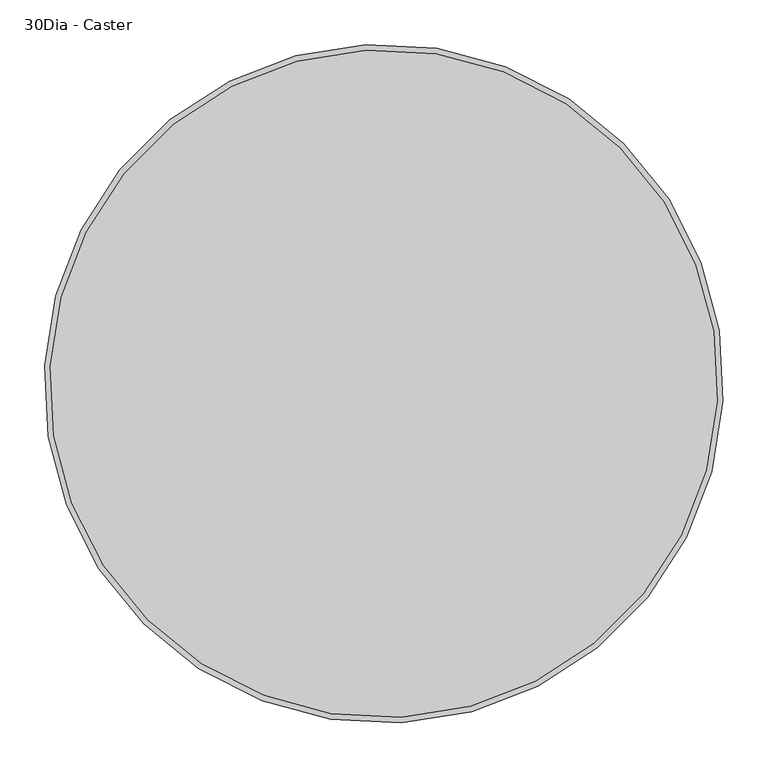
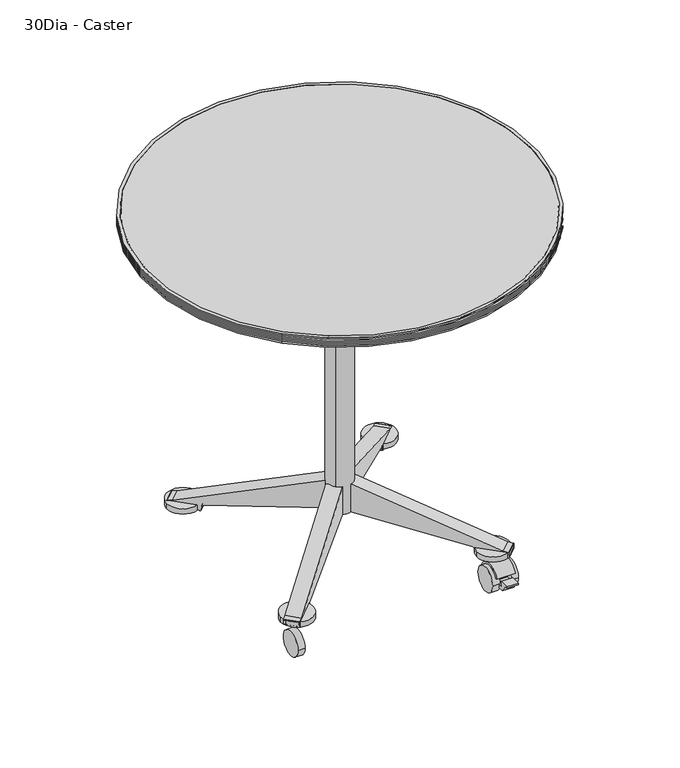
"""IFC4 building model written with IfcOpenShell, lengths in millimetres: furniture geometry, Coalesse_AM_Table_Conference_Ballet_Table_Round : 30Dia - Caster."""

import ifcopenshell
import ifcopenshell.guid

model = None  # the IFC model being written
_history = None  # IfcOwnerHistory: only IFC2X3 demands one
_inside = {}  # id of a spatial element -> (the spatial element, [elements in it])
_under = {}  # id of a project, library or spatial element -> (it, [spatial elements below it])
_declared = {}  # id of a project -> (the project, [libraries it declares])
_typed = {}  # id of a type object -> (the type object, [elements of that type])
_made_of = {}  # id of a material, layer set ... -> (it, [elements and type objects made of it])


def new_model(schema):
    """Start an empty IFC model of exactly this schema.

    Asked for "IFC4X3", IfcOpenShell would pick the latest addendum, in which some entities
    have other attributes; the version numbers below select the first issue.
    IFC2X3 requires an IfcOwnerHistory on every rooted entity: one is made here for all.
    """
    global model, _history
    if schema == "IFC4X3":
        model = ifcopenshell.file(schema_version=(4, 3, 0, 0))
    else:
        model = ifcopenshell.file(schema=schema)
    _inside.clear()
    _under.clear()
    _declared.clear()
    _typed.clear()
    _made_of.clear()
    _history = None
    if model.schema == "IFC2X3":
        org = make("IfcOrganization", Name="unknown")
        user = make(
            "IfcPersonAndOrganization",
            ThePerson=make("IfcPerson", FamilyName="unknown"),
            TheOrganization=org,
        )
        app = make(
            "IfcApplication",
            ApplicationDeveloper=org,
            Version="unknown",
            ApplicationFullName="unknown",
            ApplicationIdentifier="unknown",
        )
        _history = make(
            "IfcOwnerHistory",
            OwningUser=user,
            OwningApplication=app,
            ChangeAction="ADDED",
            CreationDate=0,
        )
    return model


def make(cls, **values):
    """One entity of the class cls with the attributes given. An attribute that is None is left unset."""
    return model.create_entity(
        cls, **{name: value for name, value in values.items() if value is not None}
    )


def rooted(cls, **values):
    """An entity with a GlobalId (a new one), such as an element, a storey or a relation."""
    return make(cls, GlobalId=ifcopenshell.guid.new(), OwnerHistory=_history, **values)


def si_unit(unit_type, name, prefix=None):
    """IfcSIUnit, for example si_unit("LENGTHUNIT", "METRE", prefix="MILLI")."""
    return make("IfcSIUnit", UnitType=unit_type, Prefix=prefix, Name=name)


def assignment(units):
    """IfcUnitAssignment: the units of a project."""
    return None if units is None else make("IfcUnitAssignment", Units=units)


def point(xyz):
    """IfcCartesianPoint."""
    return None if xyz is None else make("IfcCartesianPoint", Coordinates=xyz)


def direction(xyz):
    """IfcDirection."""
    return None if xyz is None else make("IfcDirection", DirectionRatios=xyz)


def frame(location, z_axis=None, x_axis=None):
    """IfcAxis2Placement3D, a coordinate frame: its origin and axes. An axis left out is left unset."""
    return make(
        "IfcAxis2Placement3D",
        Location=point(location),
        Axis=direction(z_axis),
        RefDirection=direction(x_axis),
    )


def frame_2d(location, x_axis=None):
    """IfcAxis2Placement2D, a coordinate frame in the plane: its origin and x axis."""
    return make(
        "IfcAxis2Placement2D", Location=point(location), RefDirection=direction(x_axis)
    )


def origin():
    """The frame at (0, 0, 0) with its axes left unset."""
    return frame((0.0, 0.0, 0.0))


def origin_2d():
    """The frame at (0, 0) in the plane with its x axis left unset."""
    return frame_2d((0.0, 0.0))


def place(relative_to, where):
    """IfcLocalPlacement: puts the frame where relative to a parent placement (None: the world)."""
    return make(
        "IfcLocalPlacement", PlacementRelTo=relative_to, RelativePlacement=where
    )


def context(
    kind, dimensions, precision=None, world=None, true_north=None, identifier=None
):
    """IfcGeometricRepresentationContext, for example the 3D "Model" context."""
    return make(
        "IfcGeometricRepresentationContext",
        ContextIdentifier=identifier,
        ContextType=kind,
        CoordinateSpaceDimension=dimensions,
        Precision=precision,
        WorldCoordinateSystem=world,
        TrueNorth=true_north,
    )


def project(units=None, contexts=None):
    """IfcProject with its units and contexts."""
    return rooted(
        "IfcProject",
        Name="project",
        RepresentationContexts=contexts,
        UnitsInContext=assignment(units),
    )


def spatial(cls, under=None, at=None, **own):
    """A site, building, storey or space (cls), placed at a placement, below another one or the project."""
    s = rooted(cls, ObjectPlacement=at, **own)
    if under is not None:
        _under.setdefault(under.id(), (under, []))[1].append(s)
    return s


def polyline(points):
    """IfcPolyline through the points."""
    return make("IfcPolyline", Points=[point(p) for p in points])


def circle_curve(where, radius):
    """IfcCircle in the frame where."""
    return make("IfcCircle", Position=where, Radius=radius)


def trimmed(basis, trim1, trim2, sense, master):
    """IfcTrimmedCurve: the piece of a basis curve between two trims."""
    return make(
        "IfcTrimmedCurve",
        BasisCurve=basis,
        Trim1=trim1,
        Trim2=trim2,
        SenseAgreement=sense,
        MasterRepresentation=master,
    )


def segment(curve, same_sense, transition):
    """IfcCompositeCurveSegment."""
    return make(
        "IfcCompositeCurveSegment",
        Transition=transition,
        SameSense=same_sense,
        ParentCurve=curve,
    )


def composite_curve(segments, self_intersect=None):
    """IfcCompositeCurve: segments joined end to end."""
    return make("IfcCompositeCurve", Segments=segments, SelfIntersect=self_intersect)


def outline(outer, holes=None, kind="AREA"):
    """IfcArbitraryClosedProfileDef: a profile drawn as a closed curve; with holes, ...WithVoids."""
    if holes is None:
        return make("IfcArbitraryClosedProfileDef", ProfileType=kind, OuterCurve=outer)
    return make(
        "IfcArbitraryProfileDefWithVoids",
        ProfileType=kind,
        OuterCurve=outer,
        InnerCurves=holes,
    )


def extrude(swept, where, along, depth):
    """IfcExtrudedAreaSolid: the profile swept, set in the frame where, extruded along a direction by depth."""
    return make(
        "IfcExtrudedAreaSolid",
        SweptArea=swept,
        Position=where,
        ExtrudedDirection=direction(along),
        Depth=depth,
    )


def shape(context_of_items, identifier, shape_type, items):
    """IfcShapeRepresentation: the items that make up one representation, for example the "Body"."""
    return make(
        "IfcShapeRepresentation",
        ContextOfItems=context_of_items,
        RepresentationIdentifier=identifier,
        RepresentationType=shape_type,
        Items=items,
    )


def source(mapping_origin, context_of_items, identifier, shape_type, items):
    """IfcRepresentationMap: a shape defined once, which mapped items show again and again."""
    return make(
        "IfcRepresentationMap",
        MappingOrigin=mapping_origin,
        MappedRepresentation=shape(context_of_items, identifier, shape_type, items),
    )


def transform(
    local_origin,
    x_axis=None,
    y_axis=None,
    z_axis=None,
    scale=None,
    scale2=None,
    scale3=None,
    uniform=True,
):
    """IfcCartesianTransformationOperator3D, or its non-uniform kind. x_axis, y_axis, z_axis: its Axis1, 2, 3."""
    if uniform:
        return make(
            "IfcCartesianTransformationOperator3D",
            Axis1=direction(x_axis),
            Axis2=direction(y_axis),
            LocalOrigin=point(local_origin),
            Scale=scale,
            Axis3=direction(z_axis),
        )
    return make(
        "IfcCartesianTransformationOperator3DnonUniform",
        Axis1=direction(x_axis),
        Axis2=direction(y_axis),
        LocalOrigin=point(local_origin),
        Scale=scale,
        Axis3=direction(z_axis),
        Scale2=scale2,
        Scale3=scale3,
    )


def mapped(mapping_source, mapping_target):
    """IfcMappedItem: shows the shape of a source again, moved by a transform."""
    return make(
        "IfcMappedItem", MappingSource=mapping_source, MappingTarget=mapping_target
    )


def made_of(thing, what):
    """Note that an element or type object is made of a material, layer set ...; save() writes the relation."""
    if what is not None:
        _made_of.setdefault(what.id(), (what, []))[1].append(thing)
    return thing


def element(
    cls,
    number,
    at=None,
    inside=None,
    cuts=None,
    type_object=None,
    material=None,
    context=None,
    identifier="Body",
    shape_type=None,
    held_by="IfcProductDefinitionShape",
    body=None,
    shapes=None,
    **own,
):
    """One element of the class cls, such as IfcWall. Its Tag is "e" and its number.

    at: its placement. inside: the storey or other place that contains it. cuts: it is an
    opening in that element (IfcRelVoidsElement). A single representation is given by context,
    identifier, shape_type and body (its items); several are given by shapes. held_by: the class
    of the entity that holds the representations. save() writes the other relations.
    """
    e = rooted(cls, Tag="e%d" % number, ObjectPlacement=at, **own)
    if body is not None:
        shapes = [shape(context, identifier, shape_type, body)]
    if shapes is not None:
        e.Representation = make(held_by, Representations=shapes)
    if inside is not None:
        _inside.setdefault(inside.id(), (inside, []))[1].append(e)
    if cuts is not None:
        rooted(
            "IfcRelVoidsElement", RelatingBuildingElement=cuts, RelatedOpeningElement=e
        )
    if type_object is not None:
        _typed.setdefault(type_object.id(), (type_object, []))[1].append(e)
    return made_of(e, material)


def aggregate(whole, parts):
    """IfcRelAggregates: a whole, such as a stair, and the parts it consists of."""
    return rooted("IfcRelAggregates", RelatingObject=whole, RelatedObjects=parts)


def save(model, path):
    """Write the relations noted so far, then the file.

    IfcRelAggregates (storeys below a building ...), IfcRelContainedInSpatialStructure (elements
    in a storey), IfcRelDefinesByType, IfcRelAssociatesMaterial and IfcRelDeclares: one each for
    every whole, place, type object, material and project.
    """
    for whole, parts in _under.values():
        aggregate(whole, parts)
    for where, things in _inside.values():
        rooted(
            "IfcRelContainedInSpatialStructure",
            RelatedElements=things,
            RelatingStructure=where,
        )
    for kind, things in _typed.values():
        rooted("IfcRelDefinesByType", RelatedObjects=things, RelatingType=kind)
    for what, things in _made_of.values():
        rooted("IfcRelAssociatesMaterial", RelatedObjects=things, RelatingMaterial=what)
    for by, libraries in _declared.values():
        rooted("IfcRelDeclares", RelatingContext=by, RelatedDefinitions=libraries)
    model.write(path)


def plane_surface(at):
    """IfcPlane: the flat surface through the origin of the frame at, square to its z axis."""
    return make("IfcPlane", Position=at)


def cylinder_surface(at, radius):
    """IfcCylindricalSurface: all points at the distance radius from the z axis of the frame at."""
    return make("IfcCylindricalSurface", Position=at, Radius=radius)


def revolved_surface(curve, axis_point, axis_direction):
    """IfcSurfaceOfRevolution: the curve turned about the line through axis_point along axis_direction."""
    return make(
        "IfcSurfaceOfRevolution",
        SweptCurve=make("IfcArbitraryOpenProfileDef", ProfileType="CURVE", Curve=curve),
        AxisPosition=make("IfcAxis1Placement", Location=point(axis_point), Axis=direction(axis_direction)),
    )


def advanced_brep(points, edges, surfaces, faces):
    """IfcAdvancedBrep: a solid bounded by faces that lie on surfaces and meet in shared edges.

    An edge is (start, end): straight between two places in points (the first is 0);
    or (start, end, curve); or (start, end, curve, False) where it runs against its curve.
    A face is (place in surfaces, loops), or (place, loops, False) where it looks against
    its surface's normal. A loop lists edges by number (the first is 1), with a minus sign
    where the edge is run from its end to its start. The first loop is the outer one.
    """
    corners = [point(p) for p in points]
    vertices = [make("IfcVertexPoint", VertexGeometry=c) for c in corners]
    made = []
    for start, end, *more in edges:
        made.append(
            make(
                "IfcEdgeCurve",
                EdgeStart=vertices[start],
                EdgeEnd=vertices[end],
                EdgeGeometry=more[0] if more else make("IfcPolyline", Points=[corners[start], corners[end]]),
                SameSense=more[1] if len(more) > 1 else True,
            )
        )
    hull = []
    for where, loops, *sense in faces:
        bounds = []
        for j, loop in enumerate(loops):
            ring = [make("IfcOrientedEdge", EdgeElement=made[abs(k) - 1], Orientation=k > 0) for k in loop]
            bounds.append(
                make(
                    "IfcFaceOuterBound" if j == 0 else "IfcFaceBound",
                    Bound=make("IfcEdgeLoop", EdgeList=ring),
                    Orientation=True,
                )
            )
        hull.append(make("IfcAdvancedFace", Bounds=bounds, FaceSurface=surfaces[where], SameSense=sense[0] if sense else True))
    return make("IfcAdvancedBrep", Outer=make("IfcClosedShell", CfsFaces=hull))


def furniture_30dia_caster_169a5ec4(model_context):
    return source(origin(), model_context, "Body", "SolidModel", [
        extrude(outline(composite_curve([segment(trimmed(circle_curve(frame_2d((-208.7663144, 24.9907393)), 24.9398531), [point((-233.7061675, 24.9907393))], [point((-183.8264612, 24.9907393))], False, "CARTESIAN"), True, "CONTINUOUS"), segment(trimmed(circle_curve(frame_2d((-208.7663144, 24.9907393)), 24.9398531), [point((-183.8264612, 24.9907393))], [point((-233.7061675, 24.9907393))], False, "CARTESIAN"), True, "CONTINUOUS")], self_intersect=False)), frame((-217.0426362, 0.0, 0.0), z_axis=(1.0, 0.0, 0.0), x_axis=(0.0, 1.0, 0.0)), (0.0, 0.0, 1.0), 13.7103424),
        advanced_brep(
        [(210.1271218, -182.4395783, 14.7931869), (210.1271218, -182.4395783, 35.8956886), (210.1271218, -197.8152878, 51.3082762), (210.1271218, -234.6796249, 36.8601197), (210.1271218, -231.2540436, 35.7749086), (210.1271218, -185.3508649, 16.4051117), (174.0984431, -182.4395783, 14.7931869), (174.0984431, -185.3508649, 16.4051117), (174.0984431, -231.2540436, 35.7749086), (174.0984431, -234.6796249, 36.8601197), (174.0984431, -197.8152878, 51.3082762), (174.0984431, -182.4395783, 35.8956886), (201.6603984, -197.8152878, 51.3082762), (179.2633359, -197.8152878, 51.3082762), (179.2633359, -182.4395783, 35.8956886), (201.6603984, -182.4395783, 35.8956886), (179.2633359, -231.2540436, 35.7749086), (179.2633359, -219.8001714, 32.1463658), (201.6603984, -219.8001714, 32.1463658), (201.6603984, -231.2540436, 35.7749086), (201.6603984, -185.3508649, 16.4051117), (201.6603984, -195.904393, 22.2484025), (179.2633359, -195.904393, 22.2484025), (179.2633359, -185.3508649, 16.4051117), (201.6603984, -197.8152878, 63.5225277), (201.6603984, -182.4395783, 63.5225277), (201.6603984, -222.0637731, 25.0010719), (201.6603984, -241.3530844, 25.0010719), (201.6603984, -241.3530844, 35.1210973), (201.6603984, -260.4030844, 35.1210973), (201.6603984, -260.4030844, 31.7691038), (201.6603984, -253.6776476, 31.7691038), (201.6603984, -244.706152, 17.4117096), (201.6603984, -218.9375545, 17.4117096), (201.6603984, -198.9802659, 16.6930892), (179.2633359, -197.8152878, 63.5225277), (179.2633359, -182.4395783, 63.5225277), (179.2633359, -198.9802659, 16.6930892), (179.2633359, -218.9375545, 17.4117096), (179.2633359, -244.706152, 17.4117096), (179.2633359, -253.6776476, 31.7691038), (179.2633359, -260.4030844, 31.7691038), (179.2633359, -260.4030844, 35.1210973), (179.2633359, -241.3530844, 35.1210973), (179.2633359, -241.3530844, 25.0010719), (179.2633359, -222.0637731, 25.0010719)],
        [
            (0, 1, circle_curve(frame((210.1271218, -209.2741105, 25.3444377), z_axis=(1.0, 0.0, 0.0), x_axis=(0.0, 1.0, 0.0)), 28.8343721)),
            (1, 2, circle_curve(frame((210.1271218, -207.8788336, 25.8930561), z_axis=(1.0, 0.0, 0.0), x_axis=(0.0, 1.0, 0.0)), 27.3351124)),
            (2, 3, circle_curve(frame((210.1271218, -209.4353674, 26.7032164), z_axis=(1.0, 0.0, 0.0), x_axis=(0.0, 1.0, 0.0)), 27.2109394)),
            (3, 4),
            (4, 5, circle_curve(frame((210.1271218, -208.7663144, 24.9907393), z_axis=(-1.0, 0.0, 0.0), x_axis=(0.0, 1.0, 0.0)), 24.9398531)),
            (5, 0),
            (6, 7),
            (7, 8, circle_curve(frame((174.0984431, -208.7663144, 24.9907393), z_axis=(1.0, 0.0, 0.0), x_axis=(0.0, 1.0, 0.0)), 24.9398531)),
            (8, 9),
            (9, 10, circle_curve(frame((174.0984431, -209.4353674, 26.7032164), z_axis=(-1.0, 0.0, 0.0), x_axis=(0.0, 1.0, 0.0)), 27.2109394)),
            (10, 11, circle_curve(frame((174.0984431, -207.8788336, 25.8930561), z_axis=(-1.0, 0.0, 0.0), x_axis=(0.0, 1.0, 0.0)), 27.3351124)),
            (11, 6, circle_curve(frame((174.0984431, -209.2741105, 25.3444377), z_axis=(-1.0, 0.0, 0.0), x_axis=(0.0, 1.0, 0.0)), 28.8343721)),
            (9, 3),
            (2, 12),
            (12, 13),
            (13, 10),
            (0, 6),
            (11, 14),
            (14, 15),
            (15, 1),
            (8, 16),
            (16, 17),
            (17, 18),
            (18, 19),
            (19, 4),
            (5, 20),
            (20, 21),
            (21, 22),
            (22, 23),
            (23, 7),
            (15, 12, circle_curve(frame((201.6603984, -207.8788336, 25.8930561), z_axis=(1.0, 0.0, 0.0), x_axis=(0.0, 1.0, 0.0)), 27.3351124)),
            (13, 14, circle_curve(frame((179.2633359, -207.8788336, 25.8930561), z_axis=(-1.0, 0.0, 0.0), x_axis=(0.0, 1.0, 0.0)), 27.3351124)),
            (19, 20, circle_curve(frame((201.6603984, -208.7663144, 24.9907393), z_axis=(-1.0, 0.0, 0.0), x_axis=(0.0, 1.0, 0.0)), 24.9398531)),
            (23, 16, circle_curve(frame((179.2633359, -208.7663144, 24.9907393), z_axis=(1.0, 0.0, 0.0), x_axis=(0.0, 1.0, 0.0)), 24.9398531)),
            (24, 12),
            (15, 25),
            (25, 24),
            (18, 26),
            (26, 27),
            (27, 28),
            (28, 29),
            (29, 30),
            (30, 31),
            (31, 32),
            (32, 33),
            (33, 34, circle_curve(frame((201.6603984, -208.672695, 25.0010719), z_axis=(1.0, 0.0, 0.0), x_axis=(0.0, 1.0, 0.0)), 12.7658043)),
            (34, 21),
            (35, 36),
            (36, 14),
            (13, 35),
            (22, 37),
            (37, 38, circle_curve(frame((179.2633359, -208.672695, 25.0010719), z_axis=(-1.0, 0.0, 0.0), x_axis=(0.0, 1.0, 0.0)), 12.7658043)),
            (38, 39),
            (39, 40),
            (40, 41),
            (41, 42),
            (42, 43),
            (43, 44),
            (44, 45),
            (45, 17),
            (24, 35),
            (36, 25),
            (45, 26),
            (33, 38),
            (37, 34),
            (44, 27),
            (43, 28),
            (42, 29),
            (41, 30),
            (40, 31),
            (39, 32),
        ],
        [
            plane_surface(frame((210.1271218, -180.4397384, 25.3444377), z_axis=(1.0, 0.0, 0.0), x_axis=(0.0, 0.0, 1.0))),
            plane_surface(frame((174.0984431, -180.4397384, 25.3444377), z_axis=(-1.0, 0.0, 0.0), x_axis=(0.0, 0.0, -1.0))),
            cylinder_surface(frame((174.0984431, -209.4353674, 26.7032164), z_axis=(1.0, 0.0, 0.0), x_axis=(0.0, 1.0, 0.0)), 27.2109394),
            cylinder_surface(frame((174.0984431, -209.2741105, 25.3444377), z_axis=(1.0, 0.0, 0.0), x_axis=(0.0, 1.0, 0.0)), 28.8343721),
            plane_surface(frame((210.1271218, -234.6796249, 36.8601197), z_axis=(0.0, -0.30200390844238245, -0.9533066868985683), x_axis=(-1.0, 0.0, 0.0))),
            plane_surface(frame((210.1271218, -185.3508649, 16.4051117), z_axis=(0.0, -0.4843894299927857, -0.8748524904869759), x_axis=(-1.0, 0.0, 0.0))),
            cylinder_surface(frame((174.0984431, -207.8788336, 25.8930561), z_axis=(1.0, 0.0, 0.0), x_axis=(0.0, 1.0, 0.0)), 27.3351124),
            revolved_surface(polyline([(201.6603984, -183.8264613, 24.9907393), (210.1271218, -183.8264613, 24.9907393)]), (174.0984431, -208.7663144, 24.9907393), (-1.0, 0.0, 0.0)),
            revolved_surface(polyline([(174.0984431, -183.8264613, 24.9907393), (179.2633359, -183.8264613, 24.9907393)]), (174.0984431, -208.7663144, 24.9907393), (-1.0, 0.0, 0.0)),
            plane_surface(frame((201.6603984, -197.8152878, 63.5225277), z_axis=(1.0, 0.0, 0.0), x_axis=(0.0, 0.0, -1.0))),
            plane_surface(frame((179.2633359, -197.8152878, 63.5225277), z_axis=(-1.0, 0.0, 0.0), x_axis=(0.0, 0.0, 1.0))),
            plane_surface(frame((201.6603984, -197.8152878, 63.5225277), z_axis=(0.0, -1.0, 0.0), x_axis=(-1.0, 0.0, 0.0))),
            plane_surface(frame((201.6603984, -182.4395783, 35.8956886), z_axis=(0.0, 1.0, 0.0), x_axis=(-1.0, 0.0, 0.0))),
            plane_surface(frame((201.6603984, -182.4395783, 63.5225277), z_axis=(0.0, 0.0, 1.0), x_axis=(-1.0, 0.0, 0.0))),
            plane_surface(frame((201.6603984, -219.8001714, 32.1463658), z_axis=(0.0, -0.9533066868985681, 0.3020039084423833), x_axis=(-1.0, 0.0, 0.0))),
            cylinder_surface(frame((179.2633359, -208.672695, 25.0010719), z_axis=(1.0, 0.0, 0.0), x_axis=(0.0, 1.0, 0.0)), 12.7658043),
            plane_surface(frame((201.6603984, -198.9802659, 16.6930892), z_axis=(0.0, 0.8748524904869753, -0.48438942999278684), x_axis=(-1.0, 0.0, 0.0))),
            plane_surface(frame((201.6603984, -222.0637731, 25.0010719), z_axis=(0.0, 0.0, 1.0), x_axis=(-1.0, 0.0, 0.0))),
            plane_surface(frame((201.6603984, -241.3530844, 25.0010719), z_axis=(0.0, 1.0, 0.0), x_axis=(-1.0, 0.0, 0.0))),
            plane_surface(frame((201.6603984, -241.3530844, 35.1210973), z_axis=(0.0, 0.0, 1.0), x_axis=(-1.0, 0.0, 0.0))),
            plane_surface(frame((201.6603984, -260.4030844, 35.1210973), z_axis=(0.0, -1.0, 0.0), x_axis=(-1.0, 0.0, 0.0))),
            plane_surface(frame((201.6603984, -260.4030844, 31.7691038), z_axis=(0.0, 0.0, -1.0), x_axis=(-1.0, 0.0, 0.0))),
            plane_surface(frame((201.6603984, -253.6776476, 31.7691038), z_axis=(0.0, -0.8480480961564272, -0.529919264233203), x_axis=(-1.0, 0.0, 0.0))),
            plane_surface(frame((201.6603984, -244.706152, 17.4117096), z_axis=(0.0, 0.0, -1.0), x_axis=(-1.0, 0.0, 0.0))),
        ],
        [
            (0, [[1, 2, 3, 4, 5, 6]]),
            (1, [[7, 8, 9, 10, 11, 12]]),
            (2, [[13, -3, 14, 15, 16, -10]]),
            (3, [[-1, 17, -12, 18, 19, 20]]),
            (4, [[-4, -13, -9, 21, 22, 23, 24, 25]]),
            (5, [[-6, 26, 27, 28, 29, 30, -7, -17]]),
            (6, [[-2, -20, 31, -14]]),
            (6, [[-11, -16, 32, -18]]),
            (7, [[-5, -25, 33, -26]]),
            (8, [[-8, -30, 34, -21]]),
            (9, [[35, -31, 36, 37]]),
            (9, [[38, 39, 40, 41, 42, 43, 44, 45, 46, 47, -27, -33, -24]]),
            (10, [[48, 49, -32, 50]]),
            (10, [[51, 52, 53, 54, 55, 56, 57, 58, 59, 60, -22, -34, -29]]),
            (11, [[-35, 61, -50, -15]]),
            (12, [[-36, -19, -49, 62]]),
            (13, [[-37, -62, -48, -61]]),
            (14, [[-38, -23, -60, 63]]),
            (15, [[-46, 64, -52, 65]]),
            (16, [[-47, -65, -51, -28]]),
            (17, [[-39, -63, -59, 66]]),
            (18, [[-40, -66, -58, 67]]),
            (19, [[-41, -67, -57, 68]]),
            (20, [[-42, -68, -56, 69]]),
            (21, [[-43, -69, -55, 70]]),
            (22, [[-44, -70, -54, 71]]),
            (23, [[-45, -71, -53, -64]]),
        ],
    ),
        extrude(outline(composite_curve([segment(trimmed(circle_curve(frame_2d((-208.7663144, 24.9907393)), 24.9398531), [point((-233.7061675, 24.9907393))], [point((-183.8264612, 24.9907393))], False, "CARTESIAN"), True, "CONTINUOUS"), segment(trimmed(circle_curve(frame_2d((-208.7663144, 24.9907393)), 24.9398531), [point((-183.8264612, 24.9907393))], [point((-233.7061675, 24.9907393))], False, "CARTESIAN"), True, "CONTINUOUS")], self_intersect=False)), frame((166.2968952, 0.0, 0.0), z_axis=(1.0, 0.0, 0.0), x_axis=(0.0, 1.0, 0.0)), (0.0, 0.0, 1.0), 14.6120158),
        extrude(outline(composite_curve([segment(trimmed(circle_curve(frame_2d((-208.7663144, 24.9907393)), 24.9398531), [point((-233.7061675, 24.9907393))], [point((-183.8264612, 24.9907393))], False, "CARTESIAN"), True, "CONTINUOUS"), segment(trimmed(circle_curve(frame_2d((-208.7663144, 24.9907393)), 24.9398531), [point((-183.8264612, 24.9907393))], [point((-233.7061675, 24.9907393))], False, "CARTESIAN"), True, "CONTINUOUS")], self_intersect=False)), frame((203.3322938, 0.0, 0.0), z_axis=(1.0, 0.0, 0.0), x_axis=(0.0, 1.0, 0.0)), (0.0, 0.0, 1.0), 13.7103424),
        extrude(outline(composite_curve([segment(trimmed(circle_curve(frame_2d((-194.715793, 197.3207687)), 31.75), [point((-226.465793, 197.3207687))], [point((-162.965793, 197.3207687))], False, "CARTESIAN"), True, "CONTINUOUS"), segment(trimmed(circle_curve(frame_2d((-194.715793, 197.3207687)), 31.75), [point((-162.965793, 197.3207687))], [point((-226.465793, 197.3207687))], False, "CARTESIAN"), True, "CONTINUOUS")], self_intersect=False)), frame((0.0, 0.0, 62.0397209), z_axis=(0.0, 0.0, 1.0), x_axis=(1.0, 0.0, 0.0)), (0.0, 0.0, 1.0), 10.7840801),
        extrude(outline(composite_curve([segment(trimmed(circle_curve(frame_2d((191.7194605, 196.5270187)), 31.75), [point((159.9694605, 196.5270187))], [point((223.4694605, 196.5270187))], False, "CARTESIAN"), True, "CONTINUOUS"), segment(trimmed(circle_curve(frame_2d((191.7194605, 196.5270187)), 31.75), [point((223.4694605, 196.5270187))], [point((159.9694605, 196.5270187))], False, "CARTESIAN"), True, "CONTINUOUS")], self_intersect=False)), frame((0.0, 0.0, 62.0397209), z_axis=(0.0, 0.0, 1.0), x_axis=(1.0, 0.0, 0.0)), (0.0, 0.0, 1.0), 10.7840801),
        extrude(outline(composite_curve([segment(trimmed(circle_curve(frame_2d((-194.715793, -191.2787692)), 31.75), [point((-226.465793, -191.2787692))], [point((-162.965793, -191.2787692))], False, "CARTESIAN"), True, "CONTINUOUS"), segment(trimmed(circle_curve(frame_2d((-194.715793, -191.2787692)), 31.75), [point((-162.965793, -191.2787692))], [point((-226.465793, -191.2787692))], False, "CARTESIAN"), True, "CONTINUOUS")], self_intersect=False)), frame((0.0, 0.0, 62.0397209), z_axis=(0.0, 0.0, 1.0), x_axis=(1.0, 0.0, 0.0)), (0.0, 0.0, 1.0), 10.7840801),
        extrude(outline(composite_curve([segment(trimmed(circle_curve(frame_2d((191.7194605, -190.4850192)), 31.75), [point((159.9694605, -190.4850192))], [point((223.4694605, -190.4850192))], False, "CARTESIAN"), True, "CONTINUOUS"), segment(trimmed(circle_curve(frame_2d((191.7194605, -190.4850192)), 31.75), [point((223.4694605, -190.4850192))], [point((159.9694605, -190.4850192))], False, "CARTESIAN"), True, "CONTINUOUS")], self_intersect=False)), frame((0.0, 0.0, 62.0397209), z_axis=(0.0, 0.0, 1.0), x_axis=(1.0, 0.0, 0.0)), (0.0, 0.0, 1.0), 10.7840801),
        extrude(outline(composite_curve([segment(polyline([(-57.749273, 0.0), (0.0, 0.0), (-90.9931074, -269.8641919), (-92.3030079, -279.1846177)]), True, "CONTINUOUS"), segment(trimmed(circle_curve(frame_2d((-93.9206951, -278.9572666)), 1.6335852), [point((-92.3030079, -279.1846177))], [point((-93.8206014, -280.5877823))], False, "CARTESIAN"), True, "CONTINUOUS"), segment(trimmed(circle_curve(frame_2d((-95.8523928, -247.4901147)), 33.1599725), [point((-93.8206014, -280.5877823))], [point((-101.682402, -280.1335639))], False, "CARTESIAN"), True, "CONTINUOUS"), segment(trimmed(circle_curve(frame_2d((-101.2796868, -277.8786768)), 2.2905666), [point((-101.682402, -280.1335639))], [point((-103.5674671, -277.7657306))], False, "CARTESIAN"), True, "CONTINUOUS"), segment(polyline([(-103.5674671, -277.7657306), (-103.5674671, -222.4322812)]), True, "CONTINUOUS"), segment(trimmed(circle_curve(frame_2d((-100.6154331, -221.9840334)), 2.9858719), [point((-103.5674671, -222.4322812))], [point((-100.2998684, -219.0148838))], False, "CARTESIAN"), True, "CONTINUOUS"), segment(trimmed(circle_curve(frame_2d((-98.3053249, -200.2482144)), 18.872363), [point((-100.2998684, -219.0148838))], [point((-94.5016021, -218.7332835))], True, "CARTESIAN"), True, "CONTINUOUS"), segment(trimmed(circle_curve(frame_2d((-95.1495986, -215.5841949)), 3.2150673), [point((-94.5016021, -218.7332835))], [point((-91.9741141, -216.0871422))], True, "CARTESIAN"), True, "CONTINUOUS"), segment(polyline([(-91.9741141, -216.0871422), (-57.749273, 0.0)]), True, "CONTINUOUS")], self_intersect=False)), frame((-23.5273141, 7.7834997, 165.607188), z_axis=(0.7071067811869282, 0.707106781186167, 0.0), x_axis=(0.0, 0.0, 1.0)), (0.0, 0.0, 1.0), 29.2174476),
        extrude(outline(composite_curve([segment(polyline([(-57.749273, 44.2801775), (-91.9741141, 260.3673198)]), True, "CONTINUOUS"), segment(trimmed(circle_curve(frame_2d((-95.1495986, 259.8643724)), 3.2150673), [point((-91.9741141, 260.3673198))], [point((-94.5016021, 263.013461))], True, "CARTESIAN"), True, "CONTINUOUS"), segment(trimmed(circle_curve(frame_2d((-98.3053249, 244.5283919)), 18.872363), [point((-94.5016021, 263.013461))], [point((-100.2998684, 263.2950613))], True, "CARTESIAN"), True, "CONTINUOUS"), segment(trimmed(circle_curve(frame_2d((-100.6154331, 266.2642109)), 2.9858719), [point((-100.2998684, 263.2950613))], [point((-103.5674671, 266.7124587))], False, "CARTESIAN"), True, "CONTINUOUS"), segment(polyline([(-103.5674671, 266.7124587), (-103.5674671, 322.0459081)]), True, "CONTINUOUS"), segment(trimmed(circle_curve(frame_2d((-101.2796868, 322.1588543)), 2.2905666), [point((-103.5674671, 322.0459081))], [point((-101.682402, 324.4137415))], False, "CARTESIAN"), True, "CONTINUOUS"), segment(trimmed(circle_curve(frame_2d((-95.8523928, 291.7702923)), 33.1599725), [point((-101.682402, 324.4137415))], [point((-93.8206014, 324.8679598))], False, "CARTESIAN"), True, "CONTINUOUS"), segment(trimmed(circle_curve(frame_2d((-93.9206951, 323.2374442)), 1.6335852), [point((-93.8206014, 324.8679598))], [point((-92.3030079, 323.4647953))], False, "CARTESIAN"), True, "CONTINUOUS"), segment(polyline([(-92.3030079, 323.4647953), (-90.9931074, 314.1443694), (0.0, 44.2801775), (-57.749273, 44.2801775)]), True, "CONTINUOUS")], self_intersect=False)), frame((-23.5273141, 7.7834997, 165.607188), z_axis=(0.7071067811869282, 0.707106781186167, 0.0), x_axis=(0.0, 0.0, 1.0)), (0.0, 0.0, 1.0), 29.2174476),
        extrude(outline(composite_curve([segment(polyline([(-57.749273, 0.0), (0.0, 0.0), (-90.9931074, -269.8641919), (-92.3030079, -279.1846177)]), True, "CONTINUOUS"), segment(trimmed(circle_curve(frame_2d((-93.9206951, -278.9572666)), 1.6335852), [point((-92.3030079, -279.1846177))], [point((-93.8206014, -280.5877823))], False, "CARTESIAN"), True, "CONTINUOUS"), segment(trimmed(circle_curve(frame_2d((-95.8523928, -247.4901147)), 33.1599725), [point((-93.8206014, -280.5877823))], [point((-101.682402, -280.1335639))], False, "CARTESIAN"), True, "CONTINUOUS"), segment(trimmed(circle_curve(frame_2d((-101.2796868, -277.8786768)), 2.2905666), [point((-101.682402, -280.1335639))], [point((-103.5674671, -277.7657306))], False, "CARTESIAN"), True, "CONTINUOUS"), segment(polyline([(-103.5674671, -277.7657306), (-103.5674671, -222.4322812)]), True, "CONTINUOUS"), segment(trimmed(circle_curve(frame_2d((-100.6154331, -221.9840334)), 2.9858719), [point((-103.5674671, -222.4322812))], [point((-100.2998684, -219.0148838))], False, "CARTESIAN"), True, "CONTINUOUS"), segment(trimmed(circle_curve(frame_2d((-98.3053249, -200.2482144)), 18.872363), [point((-100.2998684, -219.0148838))], [point((-94.5016021, -218.7332835))], True, "CARTESIAN"), True, "CONTINUOUS"), segment(trimmed(circle_curve(frame_2d((-95.1495986, -215.5841949)), 3.2150673), [point((-94.5016021, -218.7332835))], [point((-91.9741141, -216.0871422))], True, "CARTESIAN"), True, "CONTINUOUS"), segment(polyline([(-91.9741141, -216.0871422), (-57.749273, 0.0)]), True, "CONTINUOUS")], self_intersect=False)), frame((-7.7834997, -23.5273141, 165.607188), z_axis=(-0.7071067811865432, 0.7071067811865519, 0.0), x_axis=(0.0, 0.0, 1.0)), (0.0, 0.0, 1.0), 29.2174476),
        extrude(outline(composite_curve([segment(polyline([(-57.749273, 44.2801775), (-91.9741141, 260.3673198)]), True, "CONTINUOUS"), segment(trimmed(circle_curve(frame_2d((-95.1495986, 259.8643724)), 3.2150673), [point((-91.9741141, 260.3673198))], [point((-94.5016021, 263.013461))], True, "CARTESIAN"), True, "CONTINUOUS"), segment(trimmed(circle_curve(frame_2d((-98.3053249, 244.5283919)), 18.872363), [point((-94.5016021, 263.013461))], [point((-100.2998684, 263.2950613))], True, "CARTESIAN"), True, "CONTINUOUS"), segment(trimmed(circle_curve(frame_2d((-100.6154331, 266.2642109)), 2.9858719), [point((-100.2998684, 263.2950613))], [point((-103.5674671, 266.7124587))], False, "CARTESIAN"), True, "CONTINUOUS"), segment(polyline([(-103.5674671, 266.7124587), (-103.5674671, 322.0459081)]), True, "CONTINUOUS"), segment(trimmed(circle_curve(frame_2d((-101.2796868, 322.1588543)), 2.2905666), [point((-103.5674671, 322.0459081))], [point((-101.682402, 324.4137415))], False, "CARTESIAN"), True, "CONTINUOUS"), segment(trimmed(circle_curve(frame_2d((-95.8523928, 291.7702923)), 33.1599725), [point((-101.682402, 324.4137415))], [point((-93.8206014, 324.8679598))], False, "CARTESIAN"), True, "CONTINUOUS"), segment(trimmed(circle_curve(frame_2d((-93.9206951, 323.2374442)), 1.6335852), [point((-93.8206014, 324.8679598))], [point((-92.3030079, 323.4647953))], False, "CARTESIAN"), True, "CONTINUOUS"), segment(polyline([(-92.3030079, 323.4647953), (-90.9931074, 314.1443694), (0.0, 44.2801775), (-57.749273, 44.2801775)]), True, "CONTINUOUS")], self_intersect=False)), frame((-7.7834997, -23.5273141, 165.607188), z_axis=(-0.7071067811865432, 0.7071067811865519, 0.0), x_axis=(0.0, 0.0, 1.0)), (0.0, 0.0, 1.0), 29.2174476),
        extrude(outline(composite_curve([segment(trimmed(circle_curve(frame_2d((1.04e-05, -1.04e-05)), 25.3999999), [point((-17.9605018, -17.9605225))], [point((17.9605225, 17.9605018))], False, "CARTESIAN"), True, "CONTINUOUS"), segment(trimmed(circle_curve(frame_2d((1.04e-05, -1.04e-05)), 25.3999999), [point((17.9605225, 17.9605018))], [point((-17.9605018, -17.9605225))], False, "CARTESIAN"), True, "CONTINUOUS")], self_intersect=False)), frame((0.0, 0.0, 107.857915), z_axis=(0.0, 0.0, 1.0), x_axis=(1.0, 0.0, 0.0)), (0.0, 0.0, 1.0), 499.8204968),
        advanced_brep(
        [(-264.9175556, -264.9175556, 723.9), (264.9175556, 264.9175556, 723.9), (264.9175556, 264.9175556, 704.85), (-264.9175556, -264.9175556, 704.85), (-269.4087111, -269.4087111, 720.7255014), (269.4087111, 269.4087111, 720.7255014), (269.4087111, 269.4087111, 723.9), (-269.4087111, -269.4087111, 723.9), (-267.1626849, -267.1626849, 719.1372226), (267.1626849, 267.1626849, 719.1372226), (-269.4072913, -269.4072913, 717.5499574), (269.4072913, 269.4072913, 717.5499574), (-267.16794, -267.16794, 715.9572867), (267.16794, 267.16794, 715.9572867), (-269.4068502, -269.4068502, 714.3753433), (269.4068502, 269.4068502, 714.3753433), (-267.1676382, -267.1676382, 712.7853908), (267.1676382, 267.1676382, 712.7853908), (-269.4078728, -269.4078728, 711.2011743), (269.4078728, 269.4078728, 711.2011743), (-267.1671863, -267.1671863, 709.6095518), (267.1671863, 267.1671863, 709.6095518), (-269.4076836, -269.4076836, 708.0238127), (269.4076836, 269.4076836, 708.0238127), (-269.4076836, -269.4076836, 704.85), (269.4076836, 269.4076836, 704.85)],
        [
            (0, 1, circle_curve(frame((0.0, 0.0, 723.9), z_axis=(0.0, 0.0, 1.0), x_axis=(0.7071067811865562, 0.7071067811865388, 0.0)), 374.65)),
            (1, 2),
            (2, 3, circle_curve(frame((0.0, 0.0, 704.85), z_axis=(0.0, 0.0, -1.0), x_axis=(0.7071067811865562, 0.7071067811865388, 0.0)), 374.65)),
            (3, 0),
            (4, 5, circle_curve(frame((0.0, 0.0, 720.7255014), z_axis=(0.0, 0.0, 1.0), x_axis=(0.7071067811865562, 0.7071067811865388, 0.0)), 381.0014531)),
            (5, 6),
            (6, 7, circle_curve(frame((0.0, 0.0, 723.9), z_axis=(0.0, 0.0, -1.0), x_axis=(0.7071067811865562, 0.7071067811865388, 0.0)), 381.0014531)),
            (7, 4),
            (8, 9, circle_curve(frame((0.0, 0.0, 719.1372226), z_axis=(0.0, 0.0, 1.0), x_axis=(0.7071067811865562, 0.7071067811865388, 0.0)), 377.8250923)),
            (9, 5),
            (4, 8),
            (10, 11, circle_curve(frame((0.0, 0.0, 717.5499574), z_axis=(0.0, 0.0, 1.0), x_axis=(0.7071067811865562, 0.7071067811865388, 0.0)), 380.9994452)),
            (11, 9),
            (8, 10),
            (12, 13, circle_curve(frame((0.0, 0.0, 715.9572867), z_axis=(0.0, 0.0, 1.0), x_axis=(0.7071067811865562, 0.7071067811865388, 0.0)), 377.8325242)),
            (13, 11),
            (10, 12),
            (14, 15, circle_curve(frame((0.0, 0.0, 714.3753433), z_axis=(0.0, 0.0, 1.0), x_axis=(0.7071067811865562, 0.7071067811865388, 0.0)), 380.9988213)),
            (15, 13),
            (12, 14),
            (16, 17, circle_curve(frame((0.0, 0.0, 712.7853908), z_axis=(0.0, 0.0, 1.0), x_axis=(0.7071067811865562, 0.7071067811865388, 0.0)), 377.8320974)),
            (17, 15),
            (14, 16),
            (18, 19, circle_curve(frame((0.0, 0.0, 711.2011743), z_axis=(0.0, 0.0, 1.0), x_axis=(0.7071067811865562, 0.7071067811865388, 0.0)), 381.0002675)),
            (19, 17),
            (16, 18),
            (20, 21, circle_curve(frame((0.0, 0.0, 709.6095518), z_axis=(0.0, 0.0, 1.0), x_axis=(0.7071067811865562, 0.7071067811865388, 0.0)), 377.8314582)),
            (21, 19),
            (18, 20),
            (22, 23, circle_curve(frame((0.0, 0.0, 708.0238127), z_axis=(0.0, 0.0, 1.0), x_axis=(0.7071067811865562, 0.7071067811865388, 0.0)), 381.0)),
            (23, 21),
            (20, 22),
            (24, 25, circle_curve(frame((0.0, 0.0, 704.85), z_axis=(0.0, 0.0, 1.0), x_axis=(0.7071067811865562, 0.7071067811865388, 0.0)), 381.0)),
            (25, 23),
            (22, 24),
            (1, 0, circle_curve(frame((0.0, 0.0, 723.9), z_axis=(0.0, 0.0, 1.0), x_axis=(-0.7071067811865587, -0.7071067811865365, 0.0)), 374.65)),
            (3, 2, circle_curve(frame((0.0, 0.0, 704.85), z_axis=(0.0, 0.0, -1.0), x_axis=(-0.7071067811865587, -0.7071067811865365, 0.0)), 374.65)),
            (6, 7, circle_curve(frame((0.0, 0.0, 723.9), z_axis=(0.0, 0.0, 1.0), x_axis=(-0.7071067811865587, -0.7071067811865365, 0.0)), 381.0014531)),
            (5, 4, circle_curve(frame((0.0, 0.0, 720.7255014), z_axis=(0.0, 0.0, 1.0), x_axis=(-0.7071067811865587, -0.7071067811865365, 0.0)), 381.0014531)),
            (9, 8, circle_curve(frame((0.0, 0.0, 719.1372226), z_axis=(0.0, 0.0, 1.0), x_axis=(-0.7071067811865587, -0.7071067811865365, 0.0)), 377.8250923)),
            (11, 10, circle_curve(frame((0.0, 0.0, 717.5499574), z_axis=(0.0, 0.0, 1.0), x_axis=(-0.7071067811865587, -0.7071067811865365, 0.0)), 380.9994452)),
            (13, 12, circle_curve(frame((0.0, 0.0, 715.9572867), z_axis=(0.0, 0.0, 1.0), x_axis=(-0.7071067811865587, -0.7071067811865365, 0.0)), 377.8325242)),
            (15, 14, circle_curve(frame((0.0, 0.0, 714.3753433), z_axis=(0.0, 0.0, 1.0), x_axis=(-0.7071067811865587, -0.7071067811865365, 0.0)), 380.9988213)),
            (17, 16, circle_curve(frame((0.0, 0.0, 712.7853908), z_axis=(0.0, 0.0, 1.0), x_axis=(-0.7071067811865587, -0.7071067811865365, 0.0)), 377.8320974)),
            (19, 18, circle_curve(frame((0.0, 0.0, 711.2011743), z_axis=(0.0, 0.0, 1.0), x_axis=(-0.7071067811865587, -0.7071067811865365, 0.0)), 381.0002675)),
            (21, 20, circle_curve(frame((0.0, 0.0, 709.6095518), z_axis=(0.0, 0.0, 1.0), x_axis=(-0.7071067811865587, -0.7071067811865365, 0.0)), 377.8314582)),
            (23, 22, circle_curve(frame((0.0, 0.0, 708.0238127), z_axis=(0.0, 0.0, 1.0), x_axis=(-0.7071067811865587, -0.7071067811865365, 0.0)), 381.0)),
            (25, 24, circle_curve(frame((0.0, 0.0, 704.85), z_axis=(0.0, 0.0, 1.0), x_axis=(-0.7071067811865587, -0.7071067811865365, 0.0)), 381.0)),
        ],
        [
            revolved_surface(polyline([(264.9175555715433, 264.91755557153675, 704.85), (264.9175555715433, 264.91755557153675, 723.9)]), (0.0, 0.0, 723.9), (0.0, 0.0, -1.0)),
            cylinder_surface(frame((0.0, 0.0, 723.9), z_axis=(0.0, 0.0, -1.0), x_axis=(0.7071067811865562, 0.7071067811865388, 0.0)), 381.0014531),
            revolved_surface(polyline([(269.4087111, 269.4087111, 720.7255014), (267.1626849, 267.1626849, 719.1372226)]), (0.0, 0.0, 723.9), (0.0, 0.0, -1.0)),
            revolved_surface(polyline([(267.1626849, 267.1626849, 719.1372226), (269.4072913, 269.4072913, 717.5499574)]), (0.0, 0.0, 723.9), (0.0, 0.0, -1.0)),
            revolved_surface(polyline([(269.4072913, 269.4072913, 717.5499574), (267.16794, 267.16794, 715.9572867)]), (0.0, 0.0, 723.9), (0.0, 0.0, -1.0)),
            revolved_surface(polyline([(267.16794, 267.16794, 715.9572867), (269.4068502, 269.4068502, 714.3753433)]), (0.0, 0.0, 723.9), (0.0, 0.0, -1.0)),
            revolved_surface(polyline([(269.4068502, 269.4068502, 714.3753433), (267.1676382, 267.1676382, 712.7853908)]), (0.0, 0.0, 723.9), (0.0, 0.0, -1.0)),
            revolved_surface(polyline([(267.1676382, 267.1676382, 712.7853908), (269.4078728, 269.4078728, 711.2011743)]), (0.0, 0.0, 723.9), (0.0, 0.0, -1.0)),
            revolved_surface(polyline([(269.4078728, 269.4078728, 711.2011743), (267.1671863, 267.1671863, 709.6095518)]), (0.0, 0.0, 723.9), (0.0, 0.0, -1.0)),
            revolved_surface(polyline([(267.1671863, 267.1671863, 709.6095518), (269.4076836, 269.4076836, 708.0238127)]), (0.0, 0.0, 723.9), (0.0, 0.0, -1.0)),
            cylinder_surface(frame((0.0, 0.0, 723.9), z_axis=(0.0, 0.0, -1.0), x_axis=(0.7071067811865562, 0.7071067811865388, 0.0)), 381.0),
            revolved_surface(polyline([(-264.9175555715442, -264.9175555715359, 704.85), (-264.9175555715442, -264.9175555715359, 723.9)]), (0.0, 0.0, 723.9), (0.0, 0.0, -1.0)),
            plane_surface(frame((0.0, 0.0, 723.9), z_axis=(0.0, 0.0, 1.0), x_axis=(-0.7071067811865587, -0.7071067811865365, 0.0))),
            cylinder_surface(frame((0.0, 0.0, 723.9), z_axis=(0.0, 0.0, -1.0), x_axis=(-0.7071067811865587, -0.7071067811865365, 0.0)), 381.0014531),
            revolved_surface(polyline([(-269.4087111, -269.4087111, 720.7255014), (-267.1626849, -267.1626849, 719.1372226)]), (0.0, 0.0, 723.9), (0.0, 0.0, -1.0)),
            revolved_surface(polyline([(-267.1626849, -267.1626849, 719.1372226), (-269.4072913, -269.4072913, 717.5499574)]), (0.0, 0.0, 723.9), (0.0, 0.0, -1.0)),
            revolved_surface(polyline([(-269.4072913, -269.4072913, 717.5499574), (-267.16794, -267.16794, 715.9572867)]), (0.0, 0.0, 723.9), (0.0, 0.0, -1.0)),
            revolved_surface(polyline([(-267.16794, -267.16794, 715.9572867), (-269.4068502, -269.4068502, 714.3753433)]), (0.0, 0.0, 723.9), (0.0, 0.0, -1.0)),
            revolved_surface(polyline([(-269.4068502, -269.4068502, 714.3753433), (-267.1676382, -267.1676382, 712.7853908)]), (0.0, 0.0, 723.9), (0.0, 0.0, -1.0)),
            revolved_surface(polyline([(-267.1676382, -267.1676382, 712.7853908), (-269.4078728, -269.4078728, 711.2011743)]), (0.0, 0.0, 723.9), (0.0, 0.0, -1.0)),
            revolved_surface(polyline([(-269.4078728, -269.4078728, 711.2011743), (-267.1671863, -267.1671863, 709.6095518)]), (0.0, 0.0, 723.9), (0.0, 0.0, -1.0)),
            revolved_surface(polyline([(-267.1671863, -267.1671863, 709.6095518), (-269.4076836, -269.4076836, 708.0238127)]), (0.0, 0.0, 723.9), (0.0, 0.0, -1.0)),
            cylinder_surface(frame((0.0, 0.0, 723.9), z_axis=(0.0, 0.0, -1.0), x_axis=(-0.7071067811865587, -0.7071067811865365, 0.0)), 381.0),
            plane_surface(frame((0.0, 0.0, 704.85), z_axis=(0.0, 0.0, -1.0), x_axis=(-0.7071067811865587, -0.7071067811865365, 0.0))),
        ],
        [
            (0, [[1, 2, 3, 4]]),
            (1, [[5, 6, 7, 8]]),
            (2, [[9, 10, -5, 11]]),
            (3, [[12, 13, -9, 14]]),
            (4, [[15, 16, -12, 17]]),
            (5, [[18, 19, -15, 20]]),
            (6, [[21, 22, -18, 23]]),
            (7, [[24, 25, -21, 26]]),
            (8, [[27, 28, -24, 29]]),
            (9, [[30, 31, -27, 32]]),
            (10, [[33, 34, -30, 35]]),
            (11, [[36, -4, 37, -2]]),
            (12, [[38, -7], [-36, -1]]),
            (13, [[39, -8, -38, -6]]),
            (14, [[40, -11, -39, -10]]),
            (15, [[41, -14, -40, -13]]),
            (16, [[42, -17, -41, -16]]),
            (17, [[43, -20, -42, -19]]),
            (18, [[44, -23, -43, -22]]),
            (19, [[45, -26, -44, -25]]),
            (20, [[46, -29, -45, -28]]),
            (21, [[47, -32, -46, -31]]),
            (22, [[48, -35, -47, -34]]),
            (23, [[-48, -33], [-37, -3]]),
        ],
    ),
        extrude(outline(composite_curve([segment(trimmed(circle_curve(origin_2d(), 374.65), [point((-264.9175556, -264.9175556))], [point((264.9175556, 264.9175556))], False, "CARTESIAN"), True, "CONTINUOUS"), segment(trimmed(circle_curve(origin_2d(), 374.65), [point((264.9175556, 264.9175556))], [point((-264.9175556, -264.9175556))], False, "CARTESIAN"), True, "CONTINUOUS")], self_intersect=False)), frame((0.0, 0.0, 704.85), z_axis=(0.0, 0.0, 1.0), x_axis=(1.0, 0.0, 0.0)), (0.0, 0.0, 1.0), 19.05),
    ])


if __name__ == "__main__":
    model = new_model("IFC4")
    model_context = context("Model", 3, world=origin())
    ifc_project = project(units=[si_unit("LENGTHUNIT", "METRE", prefix="MILLI")], contexts=[model_context])
    site = spatial("IfcSite", under=ifc_project)
    building = spatial("IfcBuilding", under=site)
    placement = place(None, origin())
    furniture_30dia_caster_shape = furniture_30dia_caster_169a5ec4(model_context)
    element("IfcFurniture", 1, ObjectType="Coalesse_AM_Table_Conference_Ballet_Table_Round : 30Dia - Caster", at=placement, inside=building, context=model_context, shape_type="MappedRepresentation", body=[
        mapped(furniture_30dia_caster_shape, transform((0.0, 0.0, 0.0), x_axis=(1.0, 0.0, 0.0), y_axis=(0.0, 1.0, 0.0), z_axis=(0.0, 0.0, 1.0))),
    ])
    save(model, "model.ifc")
